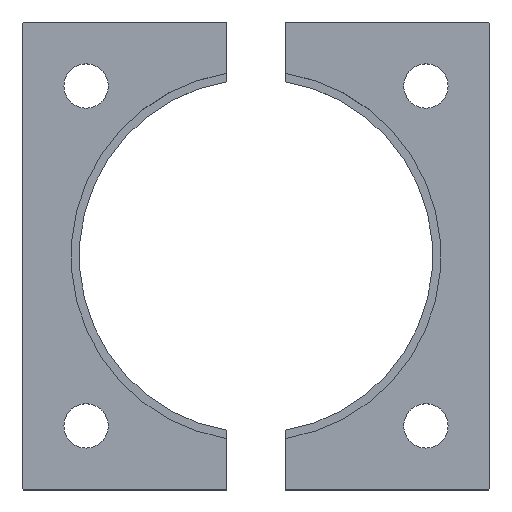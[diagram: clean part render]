
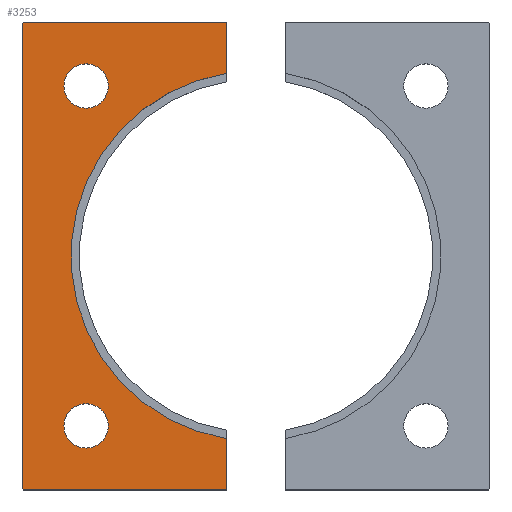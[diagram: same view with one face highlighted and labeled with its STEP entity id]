
A CAD part, top view. The second image highlights one B-rep face of the part: STEP entity #3253.
In plain terms, the highlighted planar face has unit normal (0, 0, 1).
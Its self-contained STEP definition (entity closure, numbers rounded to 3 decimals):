
#239=FACE_BOUND('',#548,.T.);
#240=FACE_BOUND('',#549,.T.);
#262=PLANE('',#3460);
#364=FACE_OUTER_BOUND('',#547,.T.);
#547=EDGE_LOOP('',(#2261,#2262,#2263,#2264,#2265,#2266,#2267,#2268));
#548=EDGE_LOOP('',(#2269));
#549=EDGE_LOOP('',(#2270));
#751=CIRCLE('',#3457,75.1);
#753=CIRCLE('',#3461,9.);
#754=CIRCLE('',#3462,9.);
#770=LINE('',#4181,#1101);
#771=LINE('',#4183,#1102);
#772=LINE('',#4185,#1103);
#773=LINE('',#4187,#1104);
#774=LINE('',#4189,#1105);
#775=LINE('',#4191,#1106);
#776=LINE('',#4192,#1107);
#1101=VECTOR('',#3598,10.);
#1102=VECTOR('',#3599,10.);
#1103=VECTOR('',#3600,10.);
#1104=VECTOR('',#3601,10.);
#1105=VECTOR('',#3602,10.);
#1106=VECTOR('',#3603,10.);
#1107=VECTOR('',#3604,10.);
#1429=VERTEX_POINT('',#4166);
#1431=VERTEX_POINT('',#4170);
#1434=VERTEX_POINT('',#4180);
#1435=VERTEX_POINT('',#4182);
#1436=VERTEX_POINT('',#4184);
#1437=VERTEX_POINT('',#4186);
#1438=VERTEX_POINT('',#4188);
#1439=VERTEX_POINT('',#4190);
#1440=VERTEX_POINT('',#4193);
#1441=VERTEX_POINT('',#4195);
#1761=EDGE_CURVE('',#1429,#1431,#751,.T.);
#1765=EDGE_CURVE('',#1434,#1431,#770,.T.);
#1766=EDGE_CURVE('',#1435,#1434,#771,.T.);
#1767=EDGE_CURVE('',#1436,#1435,#772,.T.);
#1768=EDGE_CURVE('',#1437,#1436,#773,.T.);
#1769=EDGE_CURVE('',#1438,#1437,#774,.T.);
#1770=EDGE_CURVE('',#1439,#1438,#775,.T.);
#1771=EDGE_CURVE('',#1429,#1439,#776,.T.);
#1772=EDGE_CURVE('',#1440,#1440,#753,.T.);
#1773=EDGE_CURVE('',#1441,#1441,#754,.T.);
#2261=ORIENTED_EDGE('',*,*,#1761,.T.);
#2262=ORIENTED_EDGE('',*,*,#1765,.F.);
#2263=ORIENTED_EDGE('',*,*,#1766,.F.);
#2264=ORIENTED_EDGE('',*,*,#1767,.F.);
#2265=ORIENTED_EDGE('',*,*,#1768,.F.);
#2266=ORIENTED_EDGE('',*,*,#1769,.F.);
#2267=ORIENTED_EDGE('',*,*,#1770,.F.);
#2268=ORIENTED_EDGE('',*,*,#1771,.F.);
#2269=ORIENTED_EDGE('',*,*,#1772,.T.);
#2270=ORIENTED_EDGE('',*,*,#1773,.T.);
#3253=ADVANCED_FACE('',(#364,#239,#240),#262,.T.);
#3457=AXIS2_PLACEMENT_3D('',#4172,#3588,#3589);
#3460=AXIS2_PLACEMENT_3D('',#4179,#3596,#3597);
#3461=AXIS2_PLACEMENT_3D('',#4194,#3605,#3606);
#3462=AXIS2_PLACEMENT_3D('',#4196,#3607,#3608);
#3588=DIRECTION('center_axis',(0.,0.,-1.));
#3589=DIRECTION('ref_axis',(-1.,0.,0.));
#3596=DIRECTION('center_axis',(0.,0.,1.));
#3597=DIRECTION('ref_axis',(1.,0.,0.));
#3598=DIRECTION('',(0.,-1.,0.));
#3599=DIRECTION('',(1.,0.,0.));
#3600=DIRECTION('',(0.707,0.707,0.));
#3601=DIRECTION('',(0.,1.,0.));
#3602=DIRECTION('',(-0.707,0.707,0.));
#3603=DIRECTION('',(-1.,0.,0.));
#3604=DIRECTION('',(0.,-1.,0.));
#3605=DIRECTION('center_axis',(0.,0.,-1.));
#3606=DIRECTION('ref_axis',(-1.,0.,0.));
#3607=DIRECTION('center_axis',(0.,0.,-1.));
#3608=DIRECTION('ref_axis',(-1.,0.,0.));
#4166=CARTESIAN_POINT('',(-12.,-74.135,12.));
#4170=CARTESIAN_POINT('',(-12.,74.135,12.));
#4172=CARTESIAN_POINT('Origin',(0.,0.,12.));
#4179=CARTESIAN_POINT('Origin',(-53.455,0.,
12.));
#4180=CARTESIAN_POINT('',(-12.,95.,12.));
#4181=CARTESIAN_POINT('',(-12.,-95.,12.));
#4182=CARTESIAN_POINT('',(-94.5,95.,12.));
#4183=CARTESIAN_POINT('',(-12.,95.,12.));
#4184=CARTESIAN_POINT('',(-95.,94.5,12.));
#4185=CARTESIAN_POINT('',(-94.5,95.,12.));
#4186=CARTESIAN_POINT('',(-95.,-94.5,12.));
#4187=CARTESIAN_POINT('',(-95.,94.5,12.));
#4188=CARTESIAN_POINT('',(-94.5,-95.,12.));
#4189=CARTESIAN_POINT('',(-95.,-94.5,12.));
#4190=CARTESIAN_POINT('',(-12.,-95.,12.));
#4191=CARTESIAN_POINT('',(-94.5,-95.,12.));
#4192=CARTESIAN_POINT('',(-12.,-95.,12.));
#4193=CARTESIAN_POINT('',(-60.,-69.,12.));
#4194=CARTESIAN_POINT('Origin',(-69.,-69.,12.));
#4195=CARTESIAN_POINT('',(-60.,69.,12.));
#4196=CARTESIAN_POINT('Origin',(-69.,69.,12.));
